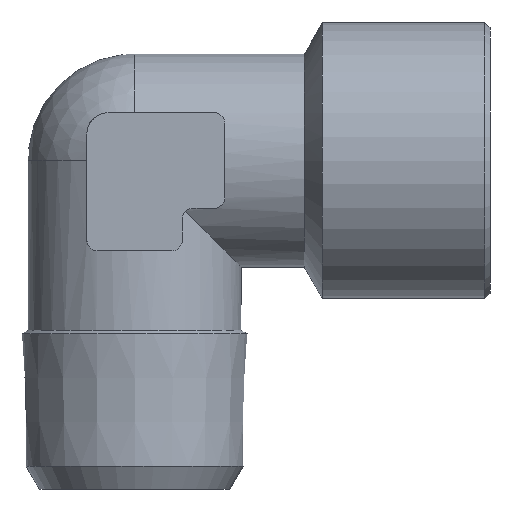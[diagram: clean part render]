
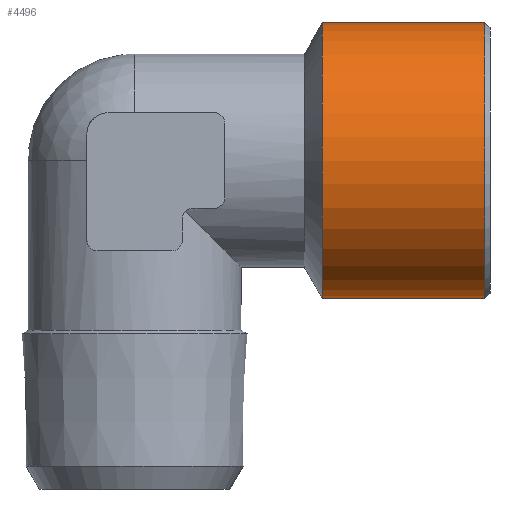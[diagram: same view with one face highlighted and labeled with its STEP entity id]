
A CAD part, front view. The second image highlights one B-rep face of the part: STEP entity #4496.
In plain terms, the highlighted cylindrical face has radius 13 mm (diameter 26 mm), a full revolution.
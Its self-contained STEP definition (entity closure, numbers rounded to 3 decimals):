
#1243=CYLINDRICAL_SURFACE('',#4385,13.);
#1276=ORIENTED_EDGE('',*,*,#1611,.T.);
#1277=ORIENTED_EDGE('',*,*,#1612,.T.);
#1494=CIRCLE('',#4384,13.);
#1495=CIRCLE('',#4386,13.);
#1534=VERTEX_POINT('',#2091);
#1535=VERTEX_POINT('',#2094);
#1611=EDGE_CURVE('',#1534,#1534,#1494,.T.);
#1612=EDGE_CURVE('',#1535,#1535,#1495,.T.);
#1723=EDGE_LOOP('',(#1276));
#1724=EDGE_LOOP('',(#1277));
#1786=FACE_BOUND('',#1723,.T.);
#1787=FACE_BOUND('',#1724,.T.);
#1853=DIRECTION('',(-1.,0.,0.));
#1854=DIRECTION('',(0.,0.,13.));
#1855=DIRECTION('',(-1.,0.,0.));
#1856=DIRECTION('',(0.,1.,0.));
#1857=DIRECTION('',(1.,0.,0.));
#1858=DIRECTION('',(0.,0.,13.));
#2091=CARTESIAN_POINT('',(56.151,44.24,13.));
#2092=CARTESIAN_POINT('',(56.151,44.24,0.));
#2093=CARTESIAN_POINT('',(56.151,44.24,0.));
#2094=CARTESIAN_POINT('',(40.854,44.24,13.));
#2095=CARTESIAN_POINT('',(40.854,44.24,0.));
#4384=AXIS2_PLACEMENT_3D('',#2092,#1853,#1854);
#4385=AXIS2_PLACEMENT_3D('',#2093,#1855,#1856);
#4386=AXIS2_PLACEMENT_3D('',#2095,#1857,#1858);
#4496=ADVANCED_FACE('',(#1786,#1787),#1243,.T.);
